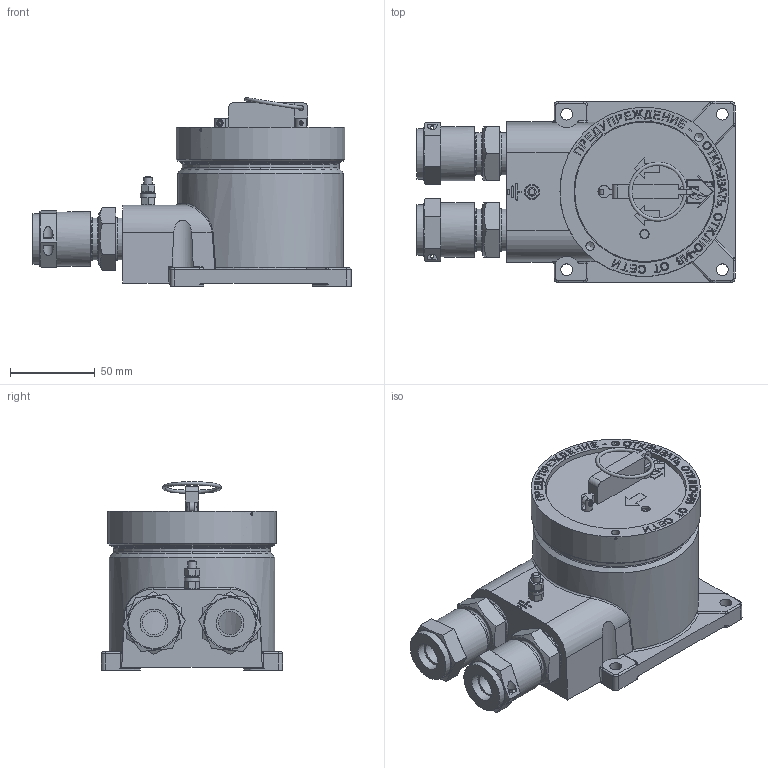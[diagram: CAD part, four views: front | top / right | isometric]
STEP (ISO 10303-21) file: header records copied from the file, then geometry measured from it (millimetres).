
FILE_DESCRIPTION(('STEP AP242'), '1');
FILE_NAME('908.2521.00.000蚜 离桧栝', '', ('UNSPECIFIED'), ('UNSPECIFIED'), 'ASCON STEP Converter 1.6', 'ASCON Math Kernel', '');
FILE_SCHEMA(('AP242_MANAGED_MODEL_BASED_3D_ENGINEERING_MIM_LF { 1 0 10303 442 1 1 4 }'));
Length unit declared in the file: millimetre
Bounding box: 188 x 107 x 111.57 mm (x, y, z)
Volume: 549440.2 mm3; surface area: 126163.6 mm2
Topology: 3 solids, 3 shells, 1660 faces, 4565 edges, 3003 vertices
Faces by surface type: cylinder 820, plane 739, torus 47, cone 43, bspline 6, extrusion 5
Full cylindrical faces by diameter (mm): 1 x1, 1.5 x4, 2 x4, 3 x1, 3.1 x2, 3.2 x2, 4 x1, 5 x8, 5.3 x2, 5.5 x2, 7 x6, 8 x1, 9 x2, 13.6 x2, 14 x2, 15 x2, 16.5 x4, 23.752 x1, 24.8 x4, 25.376 x1, 27 x2, 30 x2, 32 x2, 82.5 x1, 83.5 x1, 85 x1, 87 x1, 92.8 x1, 95 x1, 98 x1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
Entity records: 71083 total; most frequent: CARTESIAN_POINT 14625, DIRECTION 9346, ORIENTED_EDGE 8860, EDGE_CURVE 4430, AXIS2_PLACEMENT_3D 3431, VERTEX_POINT 2997, VECTOR 2484, LINE 2479
